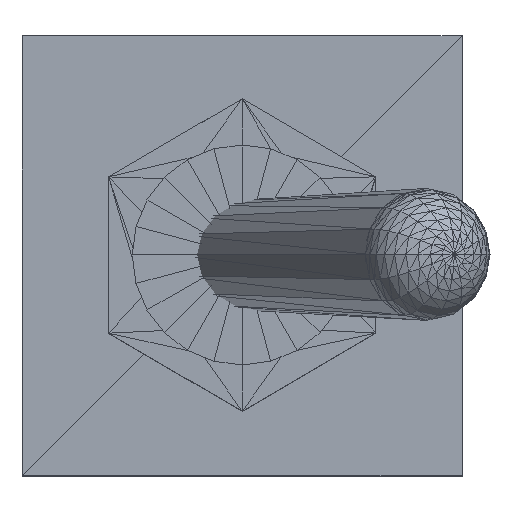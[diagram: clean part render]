
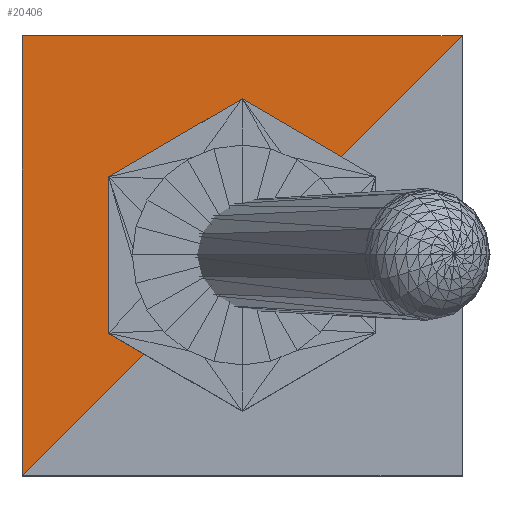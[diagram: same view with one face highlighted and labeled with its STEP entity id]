
A CAD part, top view. The second image highlights one B-rep face of the part: STEP entity #20406.
In plain terms, the highlighted planar face has unit normal (0, 0, 1).
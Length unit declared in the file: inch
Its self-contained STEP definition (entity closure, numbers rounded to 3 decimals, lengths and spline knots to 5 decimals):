
#20231=CARTESIAN_POINT('',(-0.24974,-0.25007,0.50007));
#20232=VERTEX_POINT('',#20231);
#20275=CARTESIAN_POINT('',(0.25012,0.25007,0.49993));
#20276=VERTEX_POINT('',#20275);
#20314=CARTESIAN_POINT('',(-0.24988,0.24993,0.50007));
#20315=VERTEX_POINT('',#20314);
#20323=CARTESIAN_POINT('',(-0.24988,0.24993,0.50007));
#20324=DIRECTION('',(0.,-1.,0.));
#20325=VECTOR('',#20324,0.5);
#20326=LINE('',#20323,#20325);
#20327=EDGE_CURVE('',#20315,#20232,#20326,.T.);
#20353=CARTESIAN_POINT('',(0.25012,0.25007,0.49993));
#20354=DIRECTION('',(-1.,0.,0.));
#20355=VECTOR('',#20354,0.5);
#20356=LINE('',#20353,#20355);
#20357=EDGE_CURVE('',#20276,#20315,#20356,.T.);
#20385=CARTESIAN_POINT('',(0.25012,0.25007,0.49993));
#20386=DIRECTION('',(-0.707,-0.707,0.));
#20387=VECTOR('',#20386,0.70711);
#20388=LINE('',#20385,#20387);
#20389=EDGE_CURVE('',#20276,#20232,#20388,.T.);
#20396=CARTESIAN_POINT('',(-0.24988,0.24993,0.50007));
#20397=DIRECTION('',(0.,0.,1.));
#20398=DIRECTION('',(1.,0.,0.));
#20399=AXIS2_PLACEMENT_3D('',#20396,#20397,#20398);
#20400=PLANE('',#20399);
#20401=ORIENTED_EDGE('',*,*,#20327,.T.);
#20402=ORIENTED_EDGE('',*,*,#20389,.F.);
#20403=ORIENTED_EDGE('',*,*,#20357,.T.);
#20404=EDGE_LOOP('',(#20401,#20402,#20403));
#20405=FACE_BOUND('',#20404,.T.);
#20406=ADVANCED_FACE('',(#20405),#20400,.T.);
